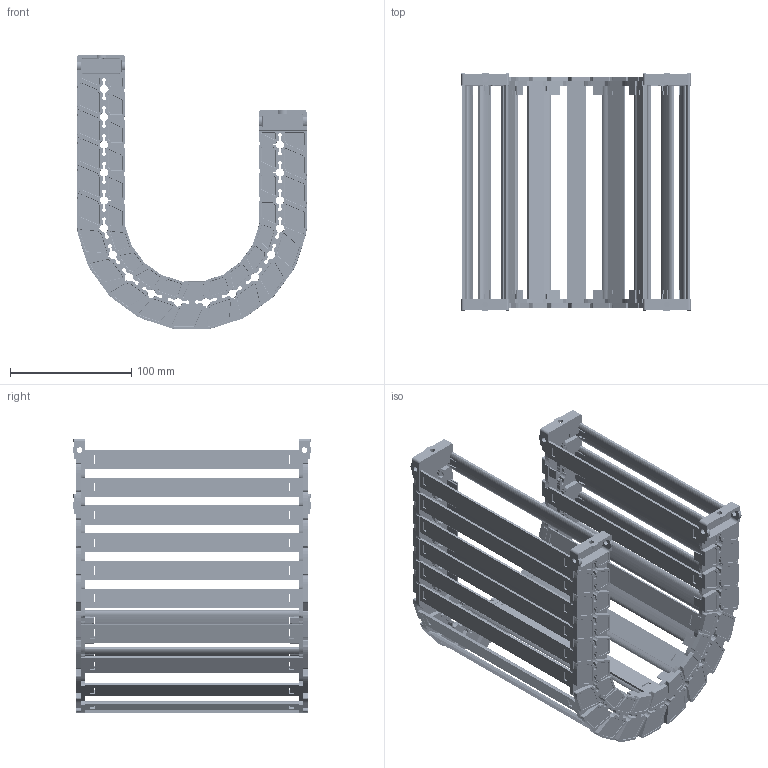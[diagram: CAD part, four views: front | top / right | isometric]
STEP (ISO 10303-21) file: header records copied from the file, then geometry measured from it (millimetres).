
FILE_DESCRIPTION((''),'2;1');
FILE_NAME('JY-32X175-R75_ASM','2026-05-04T14:19:42',('admin'),(''),'CREO PARAMETRIC BY PTC INC, 2021023','CREO PARAMETRIC BY PTC INC, 2021023','');
FILE_SCHEMA(('CONFIG_CONTROL_DESIGN'));
Length unit declared in the file: millimetre
Products named in the file (12): 32XL-L; YP; 32XL-R; ASM0001_ASM; ASM0002_ASM; 32-LTT-A-L; 32-LTT-A-R; 32XL-LTT-A_ASM; 32-LTT-B-L; 32-LTT-B-R; 32XL-LTT-B_ASM; JY-32X175-R75_ASM
Assembly tree (34 placements, depth 3):
  JY-32X175-R75_ASM
    ASM0001_ASM  x8
      32XL-L
      YP
      32XL-R
    ASM0002_ASM  x9
      32XL-L
      YP
      32XL-R
    32XL-LTT-A_ASM
      32-LTT-A-L
      YP  x2
      32-LTT-A-R
    32XL-LTT-B_ASM
      32-LTT-B-L
      YP  x2
      32-LTT-B-R
Bounding box: 189.42 x 197.1 x 226.31 mm (x, y, z)
Volume: 446037.1 mm3; surface area: 340971.3 mm2
Topology: 67 solids, 67 shells, 9314 faces, 27574 edges, 18479 vertices
Faces by surface type: plane 4086, cylinder 2417, cone 1445, extrusion 988, bspline 359, torus 14, sphere 5
Entity records: 39432 total; most frequent: CARTESIAN_POINT 11540, ORIENTED_EDGE 6210, DIRECTION 5256, EDGE_CURVE 3105, VERTEX_POINT 2079, AXIS2_PLACEMENT_3D 1784, VECTOR 1688, LINE 1628
